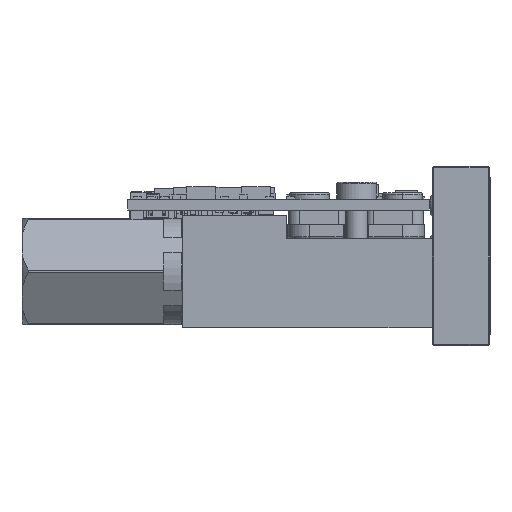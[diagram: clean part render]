
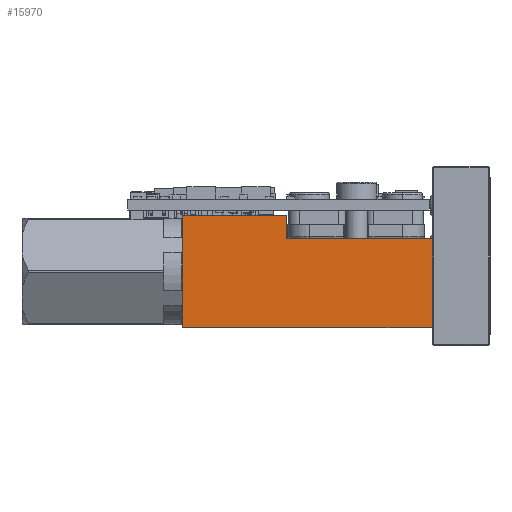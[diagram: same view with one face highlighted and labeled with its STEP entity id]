
A CAD part, left-side view. The second image highlights one B-rep face of the part: STEP entity #15970.
In plain terms, the highlighted planar face has unit normal (-1, 0, 0).
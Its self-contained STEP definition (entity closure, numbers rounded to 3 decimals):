
#694 = EDGE_CURVE ( 'NONE', #15517, #27470, #70044, .T. ) ;
#775 = DIRECTION ( 'NONE',  ( 0., -1., 0. ) ) ;
#1583 = VERTEX_POINT ( 'NONE', #51373 ) ;
#3450 = EDGE_LOOP ( 'NONE', ( #72872, #73260, #11005, #4364, #65332, #78048 ) ) ;
#4364 = ORIENTED_EDGE ( 'NONE', *, *, #23999, .T. ) ;
#6686 = VECTOR ( 'NONE', #50009, 1000. ) ;
#7164 = CARTESIAN_POINT ( 'NONE',  ( -22.3, -75.074, 5.7 ) ) ;
#7306 = VECTOR ( 'NONE', #57968, 1000. ) ;
#7742 = CARTESIAN_POINT ( 'NONE',  ( -22.3, -75.074, -10. ) ) ;
#8321 = EDGE_CURVE ( 'NONE', #15517, #41358, #74550, .T. ) ;
#8516 = VECTOR ( 'NONE', #27189, 1000. ) ;
#9097 = CARTESIAN_POINT ( 'NONE',  ( -22.3, 42.8, -10. ) ) ;
#11005 = ORIENTED_EDGE ( 'NONE', *, *, #70327, .T. ) ;
#12465 = AXIS2_PLACEMENT_3D ( 'NONE', #7742, #69163, #32552 ) ;
#12849 = CARTESIAN_POINT ( 'NONE',  ( -22.3, 8., 2.4 ) ) ;
#15517 = VERTEX_POINT ( 'NONE', #32611 ) ;
#15970 = ADVANCED_FACE ( 'NONE', ( #60280 ), #62795, .F. ) ;
#21034 = EDGE_CURVE ( 'NONE', #41358, #1583, #37240, .T. ) ;
#22691 = LINE ( 'NONE', #7164, #53258 ) ;
#23999 = EDGE_CURVE ( 'NONE', #56179, #47611, #39773, .T. ) ;
#27189 = DIRECTION ( 'NONE',  ( 0., 1., 0. ) ) ;
#27470 = VERTEX_POINT ( 'NONE', #34051 ) ;
#31921 = EDGE_CURVE ( 'NONE', #1583, #47611, #41010, .T. ) ;
#32552 = DIRECTION ( 'NONE',  ( 0., 0., -1. ) ) ;
#32611 = CARTESIAN_POINT ( 'NONE',  ( -22.3, 28.3, 2.4 ) ) ;
#32843 = DIRECTION ( 'NONE',  ( 0., 0., 1. ) ) ;
#33113 = CARTESIAN_POINT ( 'NONE',  ( -22.3, 28.3, 2.4 ) ) ;
#33126 = CARTESIAN_POINT ( 'NONE',  ( -22.3, 42.8, -10. ) ) ;
#34051 = CARTESIAN_POINT ( 'NONE',  ( -22.3, 28.3, 5.7 ) ) ;
#37240 = LINE ( 'NONE', #37985, #6686 ) ;
#37985 = CARTESIAN_POINT ( 'NONE',  ( -22.3, 8., -10. ) ) ;
#39773 = LINE ( 'NONE', #9097, #7306 ) ;
#41010 = LINE ( 'NONE', #51459, #8516 ) ;
#41358 = VERTEX_POINT ( 'NONE', #46631 ) ;
#43409 = CARTESIAN_POINT ( 'NONE',  ( -22.3, 42.8, 5.7 ) ) ;
#46631 = CARTESIAN_POINT ( 'NONE',  ( -22.3, 8., 2.4 ) ) ;
#47611 = VERTEX_POINT ( 'NONE', #33126 ) ;
#50009 = DIRECTION ( 'NONE',  ( 0., 0., -1. ) ) ;
#51373 = CARTESIAN_POINT ( 'NONE',  ( -22.3, 8., -10. ) ) ;
#51459 = CARTESIAN_POINT ( 'NONE',  ( -22.3, -75.074, -10. ) ) ;
#53258 = VECTOR ( 'NONE', #56035, 1000. ) ;
#56035 = DIRECTION ( 'NONE',  ( 0., 1., 0. ) ) ;
#56179 = VERTEX_POINT ( 'NONE', #43409 ) ;
#57968 = DIRECTION ( 'NONE',  ( 0., 0., -1. ) ) ;
#60280 = FACE_OUTER_BOUND ( 'NONE', #3450, .T. ) ;
#62795 = PLANE ( 'NONE',  #12465 ) ;
#65332 = ORIENTED_EDGE ( 'NONE', *, *, #31921, .F. ) ;
#68122 = VECTOR ( 'NONE', #32843, 1000. ) ;
#69163 = DIRECTION ( 'NONE',  ( 1., 0., 0. ) ) ;
#70044 = LINE ( 'NONE', #33113, #68122 ) ;
#70327 = EDGE_CURVE ( 'NONE', #27470, #56179, #22691, .T. ) ;
#72660 = VECTOR ( 'NONE', #775, 1000. ) ;
#72872 = ORIENTED_EDGE ( 'NONE', *, *, #8321, .F. ) ;
#73260 = ORIENTED_EDGE ( 'NONE', *, *, #694, .T. ) ;
#74550 = LINE ( 'NONE', #12849, #72660 ) ;
#78048 = ORIENTED_EDGE ( 'NONE', *, *, #21034, .F. ) ;
